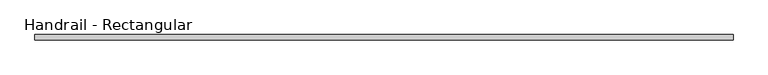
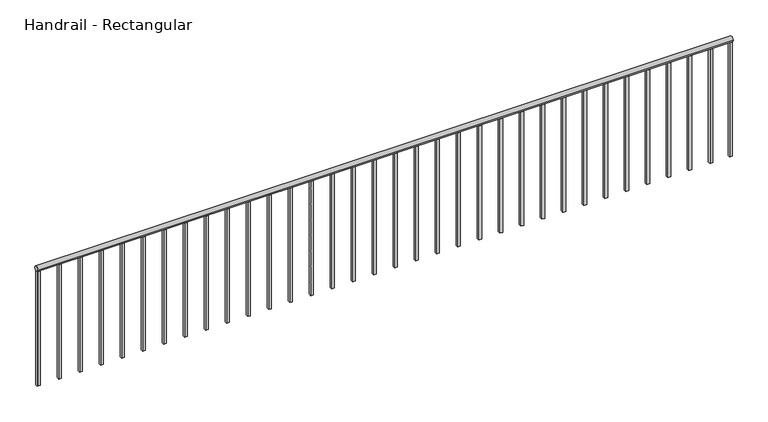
"""IFC4 building model written with IfcOpenShell, lengths in millimetres: railing geometry, Handrail - Rectangular."""

from ifc_helpers import new_model, si_unit, point, frame, frame_2d, origin, place, context, project, spatial, polyline, circle_curve, trimmed, segment, composite_curve, outline, extrude, source, transform, mapped, element, save


def handrail_rectangular_8bd776dc(model_context):
    return source(origin(), model_context, "Body", "SweptSolid", [
        extrude(outline(composite_curve([segment(trimmed(circle_curve(frame_2d((-35553.1683133, 3943.35)), 19.05), [point((-35572.2183133, 3943.35))], [point((-35534.1183133, 3943.35))], False, "CARTESIAN"), True, "CONTINUOUS"), segment(trimmed(circle_curve(frame_2d((-35553.1683133, 3943.35)), 19.05), [point((-35534.1183133, 3943.35))], [point((-35572.2183133, 3943.35))], False, "CARTESIAN"), True, "CONTINUOUS")], self_intersect=False)), frame((-23747.3839563, 0.0, 0.0), z_axis=(1.0, 0.0, 0.0), x_axis=(0.0, 1.0, 0.0)), (0.0, 0.0, 1.0), 5041.9),
        extrude(outline(polyline([(-23725.1589563, -35543.6433133), (-23725.1589563, -35562.6933133), (-23744.2089563, -35562.6933133), (-23744.2089563, -35543.6433133), (-23725.1589563, -35543.6433133)])), frame((0.0, 0.0, 3048.0), z_axis=(0.0, 0.0, 1.0), x_axis=(1.0, 0.0, 0.0)), (0.0, 0.0, 1.0), 876.3),
        extrude(outline(polyline([(-23572.7589563, -35543.6433133), (-23572.7589563, -35562.6933133), (-23591.8089563, -35562.6933133), (-23591.8089563, -35543.6433133), (-23572.7589563, -35543.6433133)])), frame((0.0, 0.0, 3048.0), z_axis=(0.0, 0.0, 1.0), x_axis=(1.0, 0.0, 0.0)), (0.0, 0.0, 1.0), 876.3),
        extrude(outline(polyline([(-23420.3589563, -35543.6433133), (-23420.3589563, -35562.6933133), (-23439.4089563, -35562.6933133), (-23439.4089563, -35543.6433133), (-23420.3589563, -35543.6433133)])), frame((0.0, 0.0, 3048.0), z_axis=(0.0, 0.0, 1.0), x_axis=(1.0, 0.0, 0.0)), (0.0, 0.0, 1.0), 876.3),
        extrude(outline(polyline([(-23267.9589563, -35543.6433133), (-23267.9589563, -35562.6933133), (-23287.0089563, -35562.6933133), (-23287.0089563, -35543.6433133), (-23267.9589563, -35543.6433133)])), frame((0.0, 0.0, 3048.0), z_axis=(0.0, 0.0, 1.0), x_axis=(1.0, 0.0, 0.0)), (0.0, 0.0, 1.0), 876.3),
        extrude(outline(polyline([(-23115.5589563, -35543.6433133), (-23115.5589563, -35562.6933133), (-23134.6089563, -35562.6933133), (-23134.6089563, -35543.6433133), (-23115.5589563, -35543.6433133)])), frame((0.0, 0.0, 3048.0), z_axis=(0.0, 0.0, 1.0), x_axis=(1.0, 0.0, 0.0)), (0.0, 0.0, 1.0), 876.3),
        extrude(outline(polyline([(-22963.1589563, -35543.6433133), (-22963.1589563, -35562.6933133), (-22982.2089563, -35562.6933133), (-22982.2089563, -35543.6433133), (-22963.1589563, -35543.6433133)])), frame((0.0, 0.0, 3048.0), z_axis=(0.0, 0.0, 1.0), x_axis=(1.0, 0.0, 0.0)), (0.0, 0.0, 1.0), 876.3),
        extrude(outline(polyline([(-22810.7589563, -35543.6433133), (-22810.7589563, -35562.6933133), (-22829.8089563, -35562.6933133), (-22829.8089563, -35543.6433133), (-22810.7589563, -35543.6433133)])), frame((0.0, 0.0, 3048.0), z_axis=(0.0, 0.0, 1.0), x_axis=(1.0, 0.0, 0.0)), (0.0, 0.0, 1.0), 876.3),
        extrude(outline(polyline([(-22658.3589563, -35543.6433133), (-22658.3589563, -35562.6933133), (-22677.4089563, -35562.6933133), (-22677.4089563, -35543.6433133), (-22658.3589563, -35543.6433133)])), frame((0.0, 0.0, 3048.0), z_axis=(0.0, 0.0, 1.0), x_axis=(1.0, 0.0, 0.0)), (0.0, 0.0, 1.0), 876.3),
        extrude(outline(polyline([(-22505.9589563, -35543.6433133), (-22505.9589563, -35562.6933133), (-22525.0089563, -35562.6933133), (-22525.0089563, -35543.6433133), (-22505.9589563, -35543.6433133)])), frame((0.0, 0.0, 3048.0), z_axis=(0.0, 0.0, 1.0), x_axis=(1.0, 0.0, 0.0)), (0.0, 0.0, 1.0), 876.3),
        extrude(outline(polyline([(-22353.5589563, -35543.6433133), (-22353.5589563, -35562.6933133), (-22372.6089563, -35562.6933133), (-22372.6089563, -35543.6433133), (-22353.5589563, -35543.6433133)])), frame((0.0, 0.0, 3048.0), z_axis=(0.0, 0.0, 1.0), x_axis=(1.0, 0.0, 0.0)), (0.0, 0.0, 1.0), 876.3),
        extrude(outline(polyline([(-22201.1589563, -35543.6433133), (-22201.1589563, -35562.6933133), (-22220.2089563, -35562.6933133), (-22220.2089563, -35543.6433133), (-22201.1589563, -35543.6433133)])), frame((0.0, 0.0, 3048.0), z_axis=(0.0, 0.0, 1.0), x_axis=(1.0, 0.0, 0.0)), (0.0, 0.0, 1.0), 876.3),
        extrude(outline(polyline([(-22048.7589563, -35543.6433133), (-22048.7589563, -35562.6933133), (-22067.8089563, -35562.6933133), (-22067.8089563, -35543.6433133), (-22048.7589563, -35543.6433133)])), frame((0.0, 0.0, 3048.0), z_axis=(0.0, 0.0, 1.0), x_axis=(1.0, 0.0, 0.0)), (0.0, 0.0, 1.0), 876.3),
        extrude(outline(polyline([(-21896.3589563, -35543.6433133), (-21896.3589563, -35562.6933133), (-21915.4089563, -35562.6933133), (-21915.4089563, -35543.6433133), (-21896.3589563, -35543.6433133)])), frame((0.0, 0.0, 3048.0), z_axis=(0.0, 0.0, 1.0), x_axis=(1.0, 0.0, 0.0)), (0.0, 0.0, 1.0), 876.3),
        extrude(outline(polyline([(-21743.9589563, -35543.6433133), (-21743.9589563, -35562.6933133), (-21763.0089563, -35562.6933133), (-21763.0089563, -35543.6433133), (-21743.9589563, -35543.6433133)])), frame((0.0, 0.0, 3048.0), z_axis=(0.0, 0.0, 1.0), x_axis=(1.0, 0.0, 0.0)), (0.0, 0.0, 1.0), 876.3),
        extrude(outline(polyline([(-21591.5589563, -35543.6433133), (-21591.5589563, -35562.6933133), (-21610.6089563, -35562.6933133), (-21610.6089563, -35543.6433133), (-21591.5589563, -35543.6433133)])), frame((0.0, 0.0, 3048.0), z_axis=(0.0, 0.0, 1.0), x_axis=(1.0, 0.0, 0.0)), (0.0, 0.0, 1.0), 876.3),
        extrude(outline(polyline([(-21439.1589563, -35543.6433133), (-21439.1589563, -35562.6933133), (-21458.2089563, -35562.6933133), (-21458.2089563, -35543.6433133), (-21439.1589563, -35543.6433133)])), frame((0.0, 0.0, 3048.0), z_axis=(0.0, 0.0, 1.0), x_axis=(1.0, 0.0, 0.0)), (0.0, 0.0, 1.0), 876.3),
        extrude(outline(polyline([(-21286.7589563, -35543.6433133), (-21286.7589563, -35562.6933133), (-21305.8089563, -35562.6933133), (-21305.8089563, -35543.6433133), (-21286.7589563, -35543.6433133)])), frame((0.0, 0.0, 3048.0), z_axis=(0.0, 0.0, 1.0), x_axis=(1.0, 0.0, 0.0)), (0.0, 0.0, 1.0), 876.3),
        extrude(outline(polyline([(-21134.3589563, -35543.6433133), (-21134.3589563, -35562.6933133), (-21153.4089563, -35562.6933133), (-21153.4089563, -35543.6433133), (-21134.3589563, -35543.6433133)])), frame((0.0, 0.0, 3048.0), z_axis=(0.0, 0.0, 1.0), x_axis=(1.0, 0.0, 0.0)), (0.0, 0.0, 1.0), 876.3),
        extrude(outline(polyline([(-20981.9589563, -35543.6433133), (-20981.9589563, -35562.6933133), (-21001.0089563, -35562.6933133), (-21001.0089563, -35543.6433133), (-20981.9589563, -35543.6433133)])), frame((0.0, 0.0, 3048.0), z_axis=(0.0, 0.0, 1.0), x_axis=(1.0, 0.0, 0.0)), (0.0, 0.0, 1.0), 876.3),
        extrude(outline(polyline([(-20829.5589563, -35543.6433133), (-20829.5589563, -35562.6933133), (-20848.6089563, -35562.6933133), (-20848.6089563, -35543.6433133), (-20829.5589563, -35543.6433133)])), frame((0.0, 0.0, 3048.0), z_axis=(0.0, 0.0, 1.0), x_axis=(1.0, 0.0, 0.0)), (0.0, 0.0, 1.0), 876.3),
        extrude(outline(polyline([(-20677.1589563, -35543.6433133), (-20677.1589563, -35562.6933133), (-20696.2089563, -35562.6933133), (-20696.2089563, -35543.6433133), (-20677.1589563, -35543.6433133)])), frame((0.0, 0.0, 3048.0), z_axis=(0.0, 0.0, 1.0), x_axis=(1.0, 0.0, 0.0)), (0.0, 0.0, 1.0), 876.3),
        extrude(outline(polyline([(-20524.7589563, -35543.6433133), (-20524.7589563, -35562.6933133), (-20543.8089563, -35562.6933133), (-20543.8089563, -35543.6433133), (-20524.7589563, -35543.6433133)])), frame((0.0, 0.0, 3048.0), z_axis=(0.0, 0.0, 1.0), x_axis=(1.0, 0.0, 0.0)), (0.0, 0.0, 1.0), 876.3),
        extrude(outline(polyline([(-20372.3589563, -35543.6433133), (-20372.3589563, -35562.6933133), (-20391.4089563, -35562.6933133), (-20391.4089563, -35543.6433133), (-20372.3589563, -35543.6433133)])), frame((0.0, 0.0, 3048.0), z_axis=(0.0, 0.0, 1.0), x_axis=(1.0, 0.0, 0.0)), (0.0, 0.0, 1.0), 876.3),
        extrude(outline(polyline([(-20219.9589563, -35543.6433133), (-20219.9589563, -35562.6933133), (-20239.0089563, -35562.6933133), (-20239.0089563, -35543.6433133), (-20219.9589563, -35543.6433133)])), frame((0.0, 0.0, 3048.0), z_axis=(0.0, 0.0, 1.0), x_axis=(1.0, 0.0, 0.0)), (0.0, 0.0, 1.0), 876.3),
        extrude(outline(polyline([(-20067.5589563, -35543.6433133), (-20067.5589563, -35562.6933133), (-20086.6089563, -35562.6933133), (-20086.6089563, -35543.6433133), (-20067.5589563, -35543.6433133)])), frame((0.0, 0.0, 3048.0), z_axis=(0.0, 0.0, 1.0), x_axis=(1.0, 0.0, 0.0)), (0.0, 0.0, 1.0), 876.3),
        extrude(outline(polyline([(-19915.1589563, -35543.6433133), (-19915.1589563, -35562.6933133), (-19934.2089563, -35562.6933133), (-19934.2089563, -35543.6433133), (-19915.1589563, -35543.6433133)])), frame((0.0, 0.0, 3048.0), z_axis=(0.0, 0.0, 1.0), x_axis=(1.0, 0.0, 0.0)), (0.0, 0.0, 1.0), 876.3),
        extrude(outline(polyline([(-19762.7589563, -35543.6433133), (-19762.7589563, -35562.6933133), (-19781.8089563, -35562.6933133), (-19781.8089563, -35543.6433133), (-19762.7589563, -35543.6433133)])), frame((0.0, 0.0, 3048.0), z_axis=(0.0, 0.0, 1.0), x_axis=(1.0, 0.0, 0.0)), (0.0, 0.0, 1.0), 876.3),
        extrude(outline(polyline([(-19610.3589563, -35543.6433133), (-19610.3589563, -35562.6933133), (-19629.4089563, -35562.6933133), (-19629.4089563, -35543.6433133), (-19610.3589563, -35543.6433133)])), frame((0.0, 0.0, 3048.0), z_axis=(0.0, 0.0, 1.0), x_axis=(1.0, 0.0, 0.0)), (0.0, 0.0, 1.0), 876.3),
        extrude(outline(polyline([(-19457.9589563, -35543.6433133), (-19457.9589563, -35562.6933133), (-19477.0089563, -35562.6933133), (-19477.0089563, -35543.6433133), (-19457.9589563, -35543.6433133)])), frame((0.0, 0.0, 3048.0), z_axis=(0.0, 0.0, 1.0), x_axis=(1.0, 0.0, 0.0)), (0.0, 0.0, 1.0), 876.3),
        extrude(outline(polyline([(-19305.5589563, -35543.6433133), (-19305.5589563, -35562.6933133), (-19324.6089563, -35562.6933133), (-19324.6089563, -35543.6433133), (-19305.5589563, -35543.6433133)])), frame((0.0, 0.0, 3048.0), z_axis=(0.0, 0.0, 1.0), x_axis=(1.0, 0.0, 0.0)), (0.0, 0.0, 1.0), 876.3),
        extrude(outline(polyline([(-19153.1589563, -35543.6433133), (-19153.1589563, -35562.6933133), (-19172.2089563, -35562.6933133), (-19172.2089563, -35543.6433133), (-19153.1589563, -35543.6433133)])), frame((0.0, 0.0, 3048.0), z_axis=(0.0, 0.0, 1.0), x_axis=(1.0, 0.0, 0.0)), (0.0, 0.0, 1.0), 876.3),
        extrude(outline(polyline([(-19000.7589563, -35543.6433133), (-19000.7589563, -35562.6933133), (-19019.8089563, -35562.6933133), (-19019.8089563, -35543.6433133), (-19000.7589563, -35543.6433133)])), frame((0.0, 0.0, 3048.0), z_axis=(0.0, 0.0, 1.0), x_axis=(1.0, 0.0, 0.0)), (0.0, 0.0, 1.0), 876.3),
        extrude(outline(polyline([(-18848.3589563, -35543.6433133), (-18848.3589563, -35562.6933133), (-18867.4089563, -35562.6933133), (-18867.4089563, -35543.6433133), (-18848.3589563, -35543.6433133)])), frame((0.0, 0.0, 3048.0), z_axis=(0.0, 0.0, 1.0), x_axis=(1.0, 0.0, 0.0)), (0.0, 0.0, 1.0), 876.3),
        extrude(outline(polyline([(-23728.3339563, -35543.6433133), (-23728.3339563, -35562.6933133), (-23747.3839563, -35562.6933133), (-23747.3839563, -35543.6433133), (-23728.3339563, -35543.6433133)])), frame((0.0, 0.0, 3048.0), z_axis=(0.0, 0.0, 1.0), x_axis=(1.0, 0.0, 0.0)), (0.0, 0.0, 1.0), 876.3),
        extrude(outline(polyline([(-18705.4839563, -35543.6433133), (-18705.4839563, -35562.6933133), (-18724.5339563, -35562.6933133), (-18724.5339563, -35543.6433133), (-18705.4839563, -35543.6433133)])), frame((0.0, 0.0, 3048.0), z_axis=(0.0, 0.0, 1.0), x_axis=(1.0, 0.0, 0.0)), (0.0, 0.0, 1.0), 876.3),
    ])


if __name__ == "__main__":
    model = new_model("IFC4")
    model_context = context("Model", 3, world=origin())
    ifc_project = project(units=[si_unit("LENGTHUNIT", "METRE", prefix="MILLI")], contexts=[model_context])
    site = spatial("IfcSite", under=ifc_project)
    building = spatial("IfcBuilding", under=site)
    placement = place(None, origin())
    handrail_rectangular_shape = handrail_rectangular_8bd776dc(model_context)
    element("IfcRailing", 1, ObjectType="Handrail - Rectangular", at=placement, inside=building, context=model_context, shape_type="MappedRepresentation", body=[
        mapped(handrail_rectangular_shape, transform((0.0, 0.0, 0.0), x_axis=(1.0, 0.0, 0.0), y_axis=(0.0, 1.0, 0.0), z_axis=(0.0, 0.0, 1.0))),
    ])
    save(model, "model.ifc")
